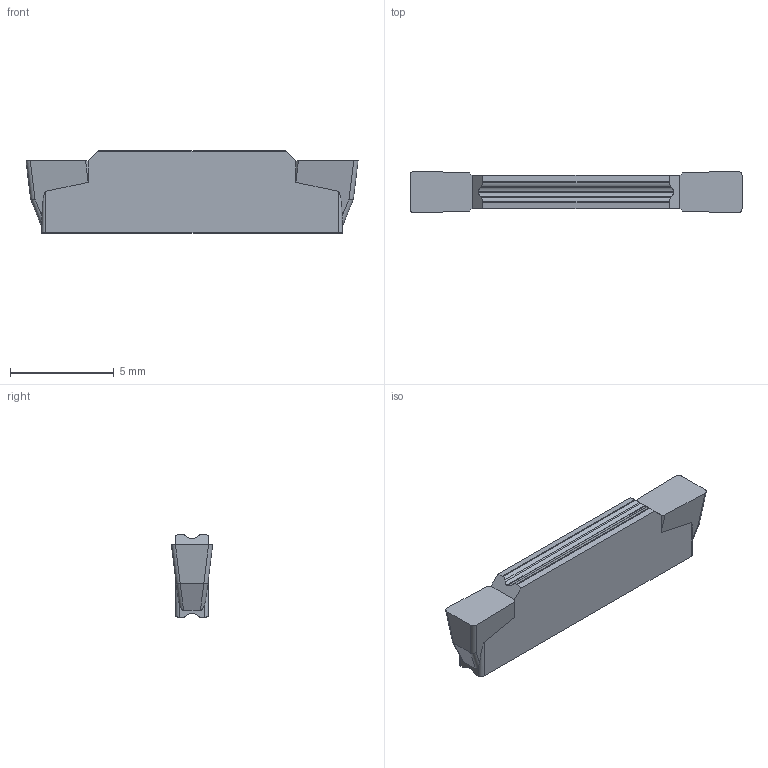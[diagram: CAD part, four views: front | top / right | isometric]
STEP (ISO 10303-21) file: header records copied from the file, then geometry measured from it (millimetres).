
FILE_DESCRIPTION (( 'STEP AP203' ), '1' );
FILE_NAME ('02-0489_HGMN_200-G.STEP', '2022-09-29T23:17:38', ( '' ), ( '' ), 'SwSTEP 2.0', 'SolidWorks 2021', '' );
FILE_SCHEMA (( 'CONFIG_CONTROL_DESIGN' ));
Length unit declared in the file: millimetre
Products named in the file (1): 02-0489_HGMN_200-G
Bounding box: 16 x 2 x 4 mm (x, y, z)
Volume: 92.2 mm3; surface area: 180.2 mm2
Topology: 1 solids, 3 shells, 62 faces, 164 edges, 108 vertices
Faces by surface type: plane 36, cylinder 24, bspline 2
Entity records: 2024 total; most frequent: CARTESIAN_POINT 528, ORIENTED_EDGE 328, DIRECTION 254, EDGE_CURVE 164, VERTEX_POINT 108, VECTOR 108, LINE 108, AXIS2_PLACEMENT_3D 73
